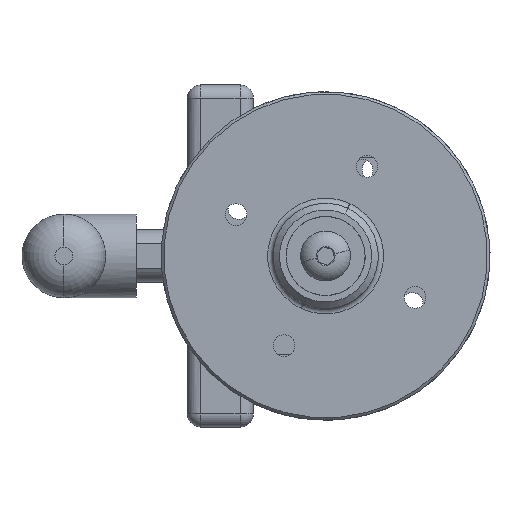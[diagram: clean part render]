
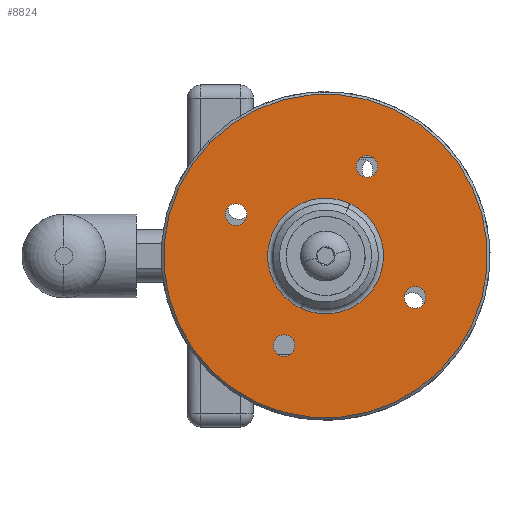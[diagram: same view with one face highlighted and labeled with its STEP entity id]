
A CAD part, left-side view. The second image highlights one B-rep face of the part: STEP entity #8824.
In plain terms, the highlighted planar face has unit normal (-1, 0, 0).
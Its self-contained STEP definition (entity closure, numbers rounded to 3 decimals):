
#241 = CIRCLE ( 'NONE', #8057, 1.65 ) ;
#242 = CIRCLE ( 'NONE', #8071, 8.8 ) ;
#244 = CIRCLE ( 'NONE', #8080, 1.65 ) ;
#272 = CIRCLE ( 'NONE', #8095, 24.6 ) ;
#1647 = CARTESIAN_POINT ( 'NONE',  ( -27.5, 21.335, -22.324 ) ) ;
#1648 = CARTESIAN_POINT ( 'NONE',  ( -27.5, 0.665, 22.324 ) ) ;
#1945 = VERTEX_POINT ( 'NONE', #8367 ) ;
#1946 = VERTEX_POINT ( 'NONE', #8368 ) ;
#1949 = VERTEX_POINT ( 'NONE', #8371 ) ;
#1950 = VERTEX_POINT ( 'NONE', #8372 ) ;
#1953 = VERTEX_POINT ( 'NONE', #8375 ) ;
#1954 = VERTEX_POINT ( 'NONE', #8376 ) ;
#1957 = VERTEX_POINT ( 'NONE', #8379 ) ;
#1958 = VERTEX_POINT ( 'NONE', #8380 ) ;
#1961 = VERTEX_POINT ( 'NONE', #8383 ) ;
#1962 = VERTEX_POINT ( 'NONE', #8384 ) ;
#1977 = VERTEX_POINT ( 'NONE', #1647 ) ;
#1978 = VERTEX_POINT ( 'NONE', #1648 ) ;
#2205 = CIRCLE ( 'NONE', #8054, 1.65 ) ;
#2207 = CIRCLE ( 'NONE', #8075, 8.8 ) ;
#2208 = CIRCLE ( 'NONE', #8055, 1.65 ) ;
#2214 = CIRCLE ( 'NONE', #8078, 1.65 ) ;
#2323 = CIRCLE ( 'NONE', #8079, 1.65 ) ;
#2348 = FACE_BOUND ( 'NONE', #3824, .T. ) ;
#2349 = FACE_BOUND ( 'NONE', #3827, .T. ) ;
#2352 = FACE_BOUND ( 'NONE', #3825, .T. ) ;
#2355 = FACE_OUTER_BOUND ( 'NONE', #4046, .T. ) ;
#2356 = FACE_BOUND ( 'NONE', #3830, .T. ) ;
#2359 = FACE_BOUND ( 'NONE', #3828, .T. ) ;
#2443 = CIRCLE ( 'NONE', #8641, 1.65 ) ;
#2445 = CIRCLE ( 'NONE', #8629, 1.65 ) ;
#2449 = CIRCLE ( 'NONE', #8642, 24.6 ) ;
#2700 = PLANE ( 'NONE',  #8568 ) ;
#2703 = CARTESIAN_POINT ( 'NONE',  ( -27.5, 11., 0. ) ) ;
#2708 = DIRECTION ( 'NONE',  ( -1., 0., 0. ) ) ;
#2709 = DIRECTION ( 'NONE',  ( 0., 0.42, -0.907 ) ) ;
#3824 = EDGE_LOOP ( 'NONE', ( #7454, #7508 ) ) ;
#3825 = EDGE_LOOP ( 'NONE', ( #7483, #7449 ) ) ;
#3827 = EDGE_LOOP ( 'NONE', ( #7312, #7304 ) ) ;
#3828 = EDGE_LOOP ( 'NONE', ( #5582, #5581 ) ) ;
#3830 = EDGE_LOOP ( 'NONE', ( #5627, #5625 ) ) ;
#4046 = EDGE_LOOP ( 'NONE', ( #7480, #7523 ) ) ;
#5581 = ORIENTED_EDGE ( 'NONE', *, *, #8975, .F. ) ;
#5582 = ORIENTED_EDGE ( 'NONE', *, *, #9025, .F. ) ;
#5625 = ORIENTED_EDGE ( 'NONE', *, *, #8971, .F. ) ;
#5627 = ORIENTED_EDGE ( 'NONE', *, *, #9021, .F. ) ;
#6535 = CARTESIAN_POINT ( 'NONE',  ( -27.5, 17.302, -13.612 ) ) ;
#6540 = CARTESIAN_POINT ( 'NONE',  ( -27.5, 24.612, 6.302 ) ) ;
#6541 = DIRECTION ( 'NONE',  ( -1., 0., 0. ) ) ;
#6542 = DIRECTION ( 'NONE',  ( 0., 0.42, -0.907 ) ) ;
#6547 = DIRECTION ( 'NONE',  ( -1., 0., 0. ) ) ;
#6548 = DIRECTION ( 'NONE',  ( 0., 0.42, -0.907 ) ) ;
#6549 = CARTESIAN_POINT ( 'NONE',  ( -27.5, 11., 0. ) ) ;
#6550 = DIRECTION ( 'NONE',  ( -1., 0., 0. ) ) ;
#6551 = DIRECTION ( 'NONE',  ( 0., 0.42, -0.907 ) ) ;
#6649 = CARTESIAN_POINT ( 'NONE',  ( -27.5, -2.612, -6.302 ) ) ;
#6650 = DIRECTION ( 'NONE',  ( -1., 0., 0. ) ) ;
#6651 = DIRECTION ( 'NONE',  ( 0., 0.42, -0.907 ) ) ;
#6659 = CARTESIAN_POINT ( 'NONE',  ( -27.5, 24.612, 6.302 ) ) ;
#6662 = CARTESIAN_POINT ( 'NONE',  ( -27.5, 4.698, 13.612 ) ) ;
#6663 = DIRECTION ( 'NONE',  ( -1., 0., 0. ) ) ;
#6664 = DIRECTION ( 'NONE',  ( 0., 0.42, -0.907 ) ) ;
#6665 = CARTESIAN_POINT ( 'NONE',  ( -27.5, 11., 0. ) ) ;
#6666 = DIRECTION ( 'NONE',  ( 1., 0., 0. ) ) ;
#6667 = DIRECTION ( 'NONE',  ( 0., 0.42, -0.907 ) ) ;
#6671 = CARTESIAN_POINT ( 'NONE',  ( -27.5, 17.302, -13.612 ) ) ;
#6672 = DIRECTION ( 'NONE',  ( -1., 0., 0. ) ) ;
#6673 = DIRECTION ( 'NONE',  ( 0., 0.42, -0.907 ) ) ;
#6683 = DIRECTION ( 'NONE',  ( -1., 0., 0. ) ) ;
#6684 = DIRECTION ( 'NONE',  ( 0., 0.42, -0.907 ) ) ;
#6707 = CARTESIAN_POINT ( 'NONE',  ( -27.5, 11., 0. ) ) ;
#6708 = DIRECTION ( 'NONE',  ( -1., 0., 0. ) ) ;
#6709 = DIRECTION ( 'NONE',  ( 0., 0.42, -0.907 ) ) ;
#6778 = CARTESIAN_POINT ( 'NONE',  ( -27.5, -2.612, -6.302 ) ) ;
#6781 = DIRECTION ( 'NONE',  ( -1., 0., 0. ) ) ;
#6782 = DIRECTION ( 'NONE',  ( 0., 0.42, -0.907 ) ) ;
#6785 = CARTESIAN_POINT ( 'NONE',  ( -27.5, 4.698, 13.612 ) ) ;
#6788 = CARTESIAN_POINT ( 'NONE',  ( -27.5, 11., 0. ) ) ;
#6790 = DIRECTION ( 'NONE',  ( 1., 0., 0. ) ) ;
#6791 = DIRECTION ( 'NONE',  ( 0., 0.42, -0.907 ) ) ;
#6793 = DIRECTION ( 'NONE',  ( -1., 0., 0. ) ) ;
#6794 = DIRECTION ( 'NONE',  ( 0., 0.42, -0.907 ) ) ;
#7304 = ORIENTED_EDGE ( 'NONE', *, *, #8978, .F. ) ;
#7312 = ORIENTED_EDGE ( 'NONE', *, *, #8933, .F. ) ;
#7449 = ORIENTED_EDGE ( 'NONE', *, *, #9024, .T. ) ;
#7454 = ORIENTED_EDGE ( 'NONE', *, *, #8931, .F. ) ;
#7480 = ORIENTED_EDGE ( 'NONE', *, *, #8993, .T. ) ;
#7483 = ORIENTED_EDGE ( 'NONE', *, *, #8976, .T. ) ;
#7508 = ORIENTED_EDGE ( 'NONE', *, *, #8983, .F. ) ;
#7523 = ORIENTED_EDGE ( 'NONE', *, *, #8934, .T. ) ;
#8054 = AXIS2_PLACEMENT_3D ( 'NONE', #6649, #6650, #6651 ) ;
#8055 = AXIS2_PLACEMENT_3D ( 'NONE', #6662, #6663, #6664 ) ;
#8057 = AXIS2_PLACEMENT_3D ( 'NONE', #6785, #6793, #6794 ) ;
#8071 = AXIS2_PLACEMENT_3D ( 'NONE', #6788, #6790, #6791 ) ;
#8075 = AXIS2_PLACEMENT_3D ( 'NONE', #6665, #6666, #6667 ) ;
#8078 = AXIS2_PLACEMENT_3D ( 'NONE', #6671, #6672, #6673 ) ;
#8079 = AXIS2_PLACEMENT_3D ( 'NONE', #6659, #6683, #6684 ) ;
#8080 = AXIS2_PLACEMENT_3D ( 'NONE', #6778, #6781, #6782 ) ;
#8095 = AXIS2_PLACEMENT_3D ( 'NONE', #6707, #6708, #6709 ) ;
#8367 = CARTESIAN_POINT ( 'NONE',  ( -27.5, 7.303, 7.986 ) ) ;
#8368 = CARTESIAN_POINT ( 'NONE',  ( -27.5, 14.697, -7.986 ) ) ;
#8371 = CARTESIAN_POINT ( 'NONE',  ( -27.5, -3.305, -4.805 ) ) ;
#8372 = CARTESIAN_POINT ( 'NONE',  ( -27.5, -1.919, -7.799 ) ) ;
#8375 = CARTESIAN_POINT ( 'NONE',  ( -27.5, 4.005, 15.109 ) ) ;
#8376 = CARTESIAN_POINT ( 'NONE',  ( -27.5, 5.391, 12.115 ) ) ;
#8379 = CARTESIAN_POINT ( 'NONE',  ( -27.5, 16.609, -12.115 ) ) ;
#8380 = CARTESIAN_POINT ( 'NONE',  ( -27.5, 17.995, -15.109 ) ) ;
#8383 = CARTESIAN_POINT ( 'NONE',  ( -27.5, 23.919, 7.799 ) ) ;
#8384 = CARTESIAN_POINT ( 'NONE',  ( -27.5, 25.305, 4.805 ) ) ;
#8568 = AXIS2_PLACEMENT_3D ( 'NONE', #2703, #2708, #2709 ) ;
#8629 = AXIS2_PLACEMENT_3D ( 'NONE', #6535, #6547, #6548 ) ;
#8641 = AXIS2_PLACEMENT_3D ( 'NONE', #6540, #6541, #6542 ) ;
#8642 = AXIS2_PLACEMENT_3D ( 'NONE', #6549, #6550, #6551 ) ;
#8824 = ADVANCED_FACE ( 'NONE', ( #2356, #2359, #2349, #2348, #2352, #2355 ), #2700, .T. ) ;
#8931 = EDGE_CURVE ( 'NONE', #1962, #1961, #2443, .T. ) ;
#8933 = EDGE_CURVE ( 'NONE', #1958, #1957, #2445, .T. ) ;
#8934 = EDGE_CURVE ( 'NONE', #1977, #1978, #2449, .T. ) ;
#8971 = EDGE_CURVE ( 'NONE', #1949, #1950, #2205, .T. ) ;
#8975 = EDGE_CURVE ( 'NONE', #1953, #1954, #2208, .T. ) ;
#8976 = EDGE_CURVE ( 'NONE', #1946, #1945, #2207, .T. ) ;
#8978 = EDGE_CURVE ( 'NONE', #1957, #1958, #2214, .T. ) ;
#8983 = EDGE_CURVE ( 'NONE', #1961, #1962, #2323, .T. ) ;
#8993 = EDGE_CURVE ( 'NONE', #1978, #1977, #272, .T. ) ;
#9021 = EDGE_CURVE ( 'NONE', #1950, #1949, #244, .T. ) ;
#9024 = EDGE_CURVE ( 'NONE', #1945, #1946, #242, .T. ) ;
#9025 = EDGE_CURVE ( 'NONE', #1954, #1953, #241, .T. ) ;
